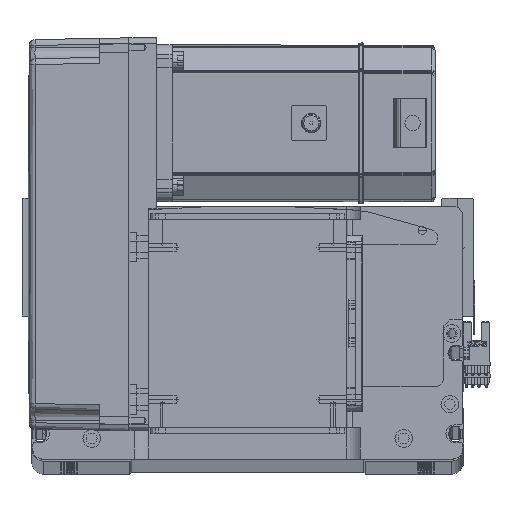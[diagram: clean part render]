
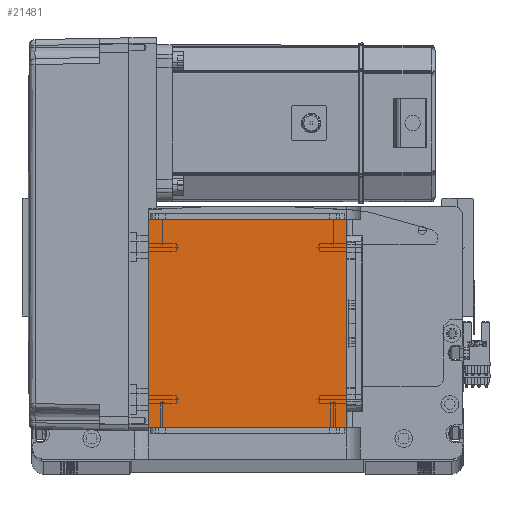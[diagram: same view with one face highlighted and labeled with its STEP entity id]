
A CAD part, top view. The second image highlights one B-rep face of the part: STEP entity #21481.
In plain terms, the highlighted planar face has unit normal (0, 0, 1).
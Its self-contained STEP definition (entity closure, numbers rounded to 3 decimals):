
#584 = CARTESIAN_POINT ( 'NONE',  ( -50.5, 122., 115. ) ) ;
#1042 = VERTEX_POINT ( 'NONE', #30185 ) ;
#2476 = VERTEX_POINT ( 'NONE', #51980 ) ;
#2786 = DIRECTION ( 'NONE',  ( -1., 0., 0. ) ) ;
#5047 = CARTESIAN_POINT ( 'NONE',  ( -50.5, 16., 115. ) ) ;
#8940 = CARTESIAN_POINT ( 'NONE',  ( -50.5, 16., 115. ) ) ;
#9936 = ORIENTED_EDGE ( 'NONE', *, *, #60357, .T. ) ;
#15205 = CARTESIAN_POINT ( 'NONE',  ( 0., 0., 115. ) ) ;
#15270 = DIRECTION ( 'NONE',  ( 0., -1., 0. ) ) ;
#17597 = LINE ( 'NONE', #45743, #23548 ) ;
#18114 = ORIENTED_EDGE ( 'NONE', *, *, #60184, .T. ) ;
#19772 = PLANE ( 'NONE',  #41955 ) ;
#20561 = LINE ( 'NONE', #56290, #42904 ) ;
#21438 = VERTEX_POINT ( 'NONE', #47432 ) ;
#21481 = ADVANCED_FACE ( 'NONE', ( #22913 ), #19772, .T. ) ;
#22759 = VECTOR ( 'NONE', #28946, 1000. ) ;
#22913 = FACE_OUTER_BOUND ( 'NONE', #34162, .T. ) ;
#23548 = VECTOR ( 'NONE', #2786, 1000. ) ;
#26544 = ORIENTED_EDGE ( 'NONE', *, *, #35627, .T. ) ;
#27828 = DIRECTION ( 'NONE',  ( 0., 1., 0. ) ) ;
#28946 = DIRECTION ( 'NONE',  ( 1., 0., 0. ) ) ;
#29110 = VERTEX_POINT ( 'NONE', #8940 ) ;
#30185 = CARTESIAN_POINT ( 'NONE',  ( 50.5, 16., 115. ) ) ;
#33283 = LINE ( 'NONE', #5047, #22759 ) ;
#34162 = EDGE_LOOP ( 'NONE', ( #26544, #9936, #34469, #18114 ) ) ;
#34469 = ORIENTED_EDGE ( 'NONE', *, *, #59651, .T. ) ;
#35627 = EDGE_CURVE ( 'NONE', #21438, #29110, #57160, .T. ) ;
#41955 = AXIS2_PLACEMENT_3D ( 'NONE', #15205, #48439, #49903 ) ;
#42904 = VECTOR ( 'NONE', #27828, 1000. ) ;
#45743 = CARTESIAN_POINT ( 'NONE',  ( -50.5, 122., 115. ) ) ;
#47432 = CARTESIAN_POINT ( 'NONE',  ( -50.5, 122., 115. ) ) ;
#48439 = DIRECTION ( 'NONE',  ( 0., 0., 1. ) ) ;
#49903 = DIRECTION ( 'NONE',  ( 1., 0., 0. ) ) ;
#51980 = CARTESIAN_POINT ( 'NONE',  ( 50.5, 122., 115. ) ) ;
#55672 = VECTOR ( 'NONE', #15270, 1000. ) ;
#56290 = CARTESIAN_POINT ( 'NONE',  ( 50.5, 122., 115. ) ) ;
#57160 = LINE ( 'NONE', #584, #55672 ) ;
#59651 = EDGE_CURVE ( 'NONE', #1042, #2476, #20561, .T. ) ;
#60184 = EDGE_CURVE ( 'NONE', #2476, #21438, #17597, .T. ) ;
#60357 = EDGE_CURVE ( 'NONE', #29110, #1042, #33283, .T. ) ;
